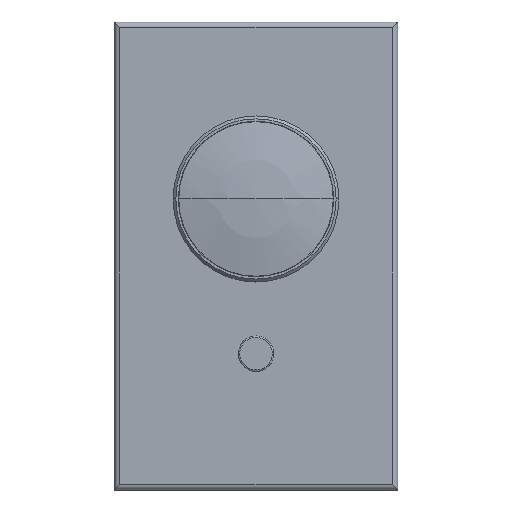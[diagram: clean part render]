
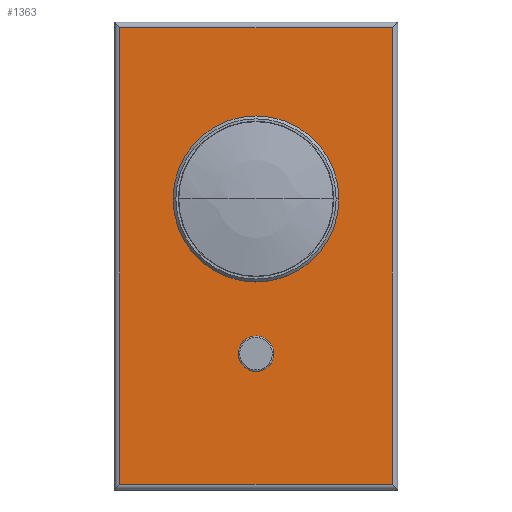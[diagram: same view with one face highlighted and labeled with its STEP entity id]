
A CAD part, top view. The second image highlights one B-rep face of the part: STEP entity #1363.
In plain terms, the highlighted planar face has unit normal (0, 0, 1).
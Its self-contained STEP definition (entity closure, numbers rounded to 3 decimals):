
#330=CARTESIAN_POINT('',(0.,20.,7.));
#331=DIRECTION('',(0.,0.,1.));
#332=DIRECTION('',(-1.,0.,0.));
#333=AXIS2_PLACEMENT_3D('',#330,#331,#332);
#340=DIRECTION('',(1.,0.,0.));
#341=VECTOR('',#340,96.);
#342=CARTESIAN_POINT('',(-48.,-80.5,7.));
#343=LINE('',#342,#341);
#344=DIRECTION('',(0.,-1.,0.));
#345=VECTOR('',#344,161.);
#346=CARTESIAN_POINT('',(-48.,80.5,7.));
#347=LINE('',#346,#345);
#348=DIRECTION('',(-1.,0.,0.));
#349=VECTOR('',#348,96.);
#350=CARTESIAN_POINT('',(48.,80.5,7.));
#351=LINE('',#350,#349);
#352=DIRECTION('',(0.,1.,0.));
#353=VECTOR('',#352,161.);
#354=CARTESIAN_POINT('',(48.,-80.5,7.));
#355=LINE('',#354,#353);
#456=CARTESIAN_POINT('',(0.,20.,7.));
#457=DIRECTION('',(0.,0.,1.));
#458=DIRECTION('',(1.,0.,0.));
#459=AXIS2_PLACEMENT_3D('',#456,#457,#458);
#479=CARTESIAN_POINT('',(0.,-34.5,7.));
#480=DIRECTION('',(0.,0.,1.));
#481=DIRECTION('',(1.,-0.032,0.));
#482=AXIS2_PLACEMENT_3D('',#479,#480,#481);
#489=CARTESIAN_POINT('',(0.,-34.5,7.));
#490=DIRECTION('',(0.,0.,1.));
#491=DIRECTION('',(-1.,0.032,0.));
#492=AXIS2_PLACEMENT_3D('',#489,#490,#491);
#631=CARTESIAN_POINT('',(-48.,-80.5,7.));
#632=CARTESIAN_POINT('',(48.,-80.5,7.));
#633=VERTEX_POINT('',#631);
#634=VERTEX_POINT('',#632);
#635=CARTESIAN_POINT('',(48.,80.5,7.));
#636=VERTEX_POINT('',#635);
#641=CARTESIAN_POINT('',(-48.,80.5,7.));
#642=VERTEX_POINT('',#641);
#753=CARTESIAN_POINT('',(-20.35,20.,7.));
#754=CARTESIAN_POINT('',(20.35,20.,7.));
#755=VERTEX_POINT('',#753);
#756=VERTEX_POINT('',#754);
#757=CARTESIAN_POINT('',(6.247,-34.697,7.));
#758=CARTESIAN_POINT('',(-6.247,-34.303,7.));
#759=VERTEX_POINT('',#757);
#760=VERTEX_POINT('',#758);
#1337=CARTESIAN_POINT('',(0.,0.,7.));
#1338=DIRECTION('',(0.,0.,1.));
#1339=DIRECTION('',(0.,-1.,0.));
#1340=AXIS2_PLACEMENT_3D('',#1337,#1338,#1339);
#1341=PLANE('',#1340);
#1343=ORIENTED_EDGE('',*,*,#1342,.F.);
#1345=ORIENTED_EDGE('',*,*,#1344,.F.);
#1347=ORIENTED_EDGE('',*,*,#1346,.F.);
#1349=ORIENTED_EDGE('',*,*,#1348,.F.);
#1350=EDGE_LOOP('',(#1343,#1345,#1347,#1349));
#1351=FACE_OUTER_BOUND('',#1350,.F.);
#1352=ORIENTED_EDGE('',*,*,#1327,.T.);
#1354=ORIENTED_EDGE('',*,*,#1353,.T.);
#1355=EDGE_LOOP('',(#1352,#1354));
#1356=FACE_BOUND('',#1355,.F.);
#1358=ORIENTED_EDGE('',*,*,#1357,.T.);
#1360=ORIENTED_EDGE('',*,*,#1359,.T.);
#1361=EDGE_LOOP('',(#1358,#1360));
#1362=FACE_BOUND('',#1361,.F.);
#1363=ADVANCED_FACE('',(#1351,#1356,#1362),#1341,.T.);
#334=CIRCLE('',#333,20.35);
#460=CIRCLE('',#459,20.35);
#483=CIRCLE('',#482,6.25);
#493=CIRCLE('',#492,6.25);
#1327=EDGE_CURVE('',#755,#756,#334,.T.);
#1342=EDGE_CURVE('',#633,#634,#343,.T.);
#1344=EDGE_CURVE('',#642,#633,#347,.T.);
#1346=EDGE_CURVE('',#636,#642,#351,.T.);
#1348=EDGE_CURVE('',#634,#636,#355,.T.);
#1353=EDGE_CURVE('',#756,#755,#460,.T.);
#1357=EDGE_CURVE('',#759,#760,#483,.T.);
#1359=EDGE_CURVE('',#760,#759,#493,.T.);
